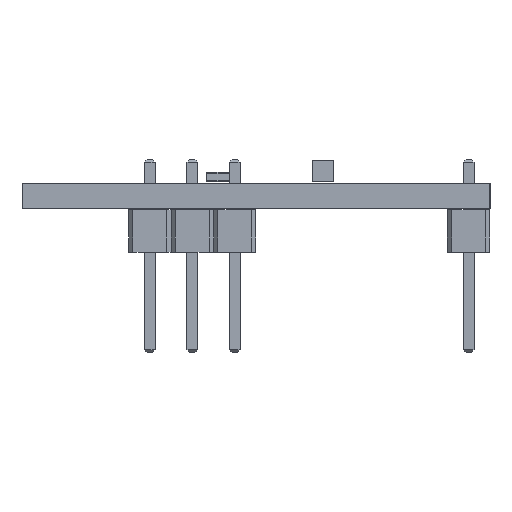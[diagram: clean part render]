
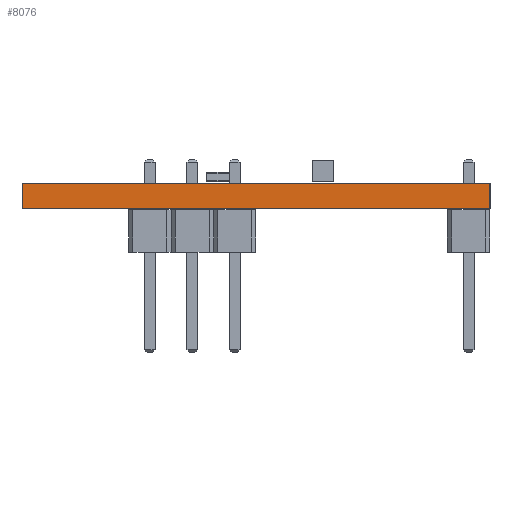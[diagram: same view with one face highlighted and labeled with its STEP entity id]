
A CAD part, left-side view. The second image highlights one B-rep face of the part: STEP entity #8076.
In plain terms, the highlighted planar face has unit normal (-1, 0, 0).
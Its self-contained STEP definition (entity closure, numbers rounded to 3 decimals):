
#8020 = VERTEX_POINT('',#8021);
#8021 = CARTESIAN_POINT('',(138.,-108.,1.51));
#8027 = EDGE_CURVE('',#8028,#8020,#8030,.T.);
#8028 = VERTEX_POINT('',#8029);
#8029 = CARTESIAN_POINT('',(138.,-108.,0.));
#8030 = LINE('',#8031,#8032);
#8031 = CARTESIAN_POINT('',(138.,-108.,0.));
#8032 = VECTOR('',#8033,1.);
#8033 = DIRECTION('',(0.,0.,1.));
#8076 = ADVANCED_FACE('',(#8077),#8102,.T.);
#8077 = FACE_BOUND('',#8078,.T.);
#8078 = EDGE_LOOP('',(#8079,#8080,#8088,#8096));
#8079 = ORIENTED_EDGE('',*,*,#8027,.T.);
#8080 = ORIENTED_EDGE('',*,*,#8081,.T.);
#8081 = EDGE_CURVE('',#8020,#8082,#8084,.T.);
#8082 = VERTEX_POINT('',#8083);
#8083 = CARTESIAN_POINT('',(138.,-80.,1.51));
#8084 = LINE('',#8085,#8086);
#8085 = CARTESIAN_POINT('',(138.,-108.,1.51));
#8086 = VECTOR('',#8087,1.);
#8087 = DIRECTION('',(0.,1.,0.));
#8088 = ORIENTED_EDGE('',*,*,#8089,.F.);
#8089 = EDGE_CURVE('',#8090,#8082,#8092,.T.);
#8090 = VERTEX_POINT('',#8091);
#8091 = CARTESIAN_POINT('',(138.,-80.,0.));
#8092 = LINE('',#8093,#8094);
#8093 = CARTESIAN_POINT('',(138.,-80.,0.));
#8094 = VECTOR('',#8095,1.);
#8095 = DIRECTION('',(0.,0.,1.));
#8096 = ORIENTED_EDGE('',*,*,#8097,.F.);
#8097 = EDGE_CURVE('',#8028,#8090,#8098,.T.);
#8098 = LINE('',#8099,#8100);
#8099 = CARTESIAN_POINT('',(138.,-108.,0.));
#8100 = VECTOR('',#8101,1.);
#8101 = DIRECTION('',(0.,1.,0.));
#8102 = PLANE('',#8103);
#8103 = AXIS2_PLACEMENT_3D('',#8104,#8105,#8106);
#8104 = CARTESIAN_POINT('',(138.,-108.,0.));
#8105 = DIRECTION('',(-1.,0.,0.));
#8106 = DIRECTION('',(0.,1.,0.));
